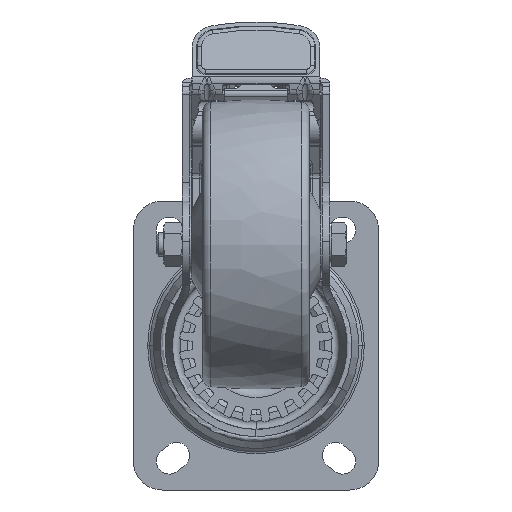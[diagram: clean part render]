
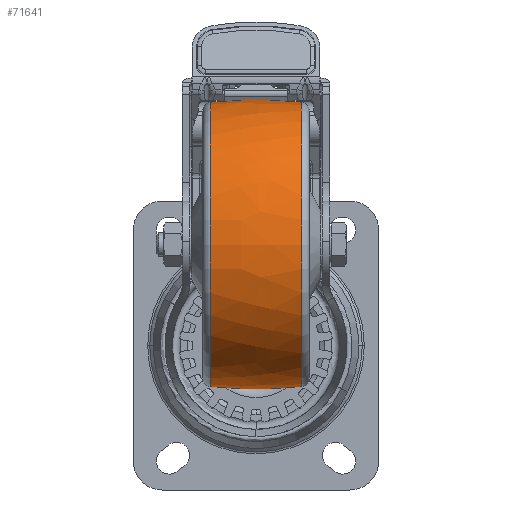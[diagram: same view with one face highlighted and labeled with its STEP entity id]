
A CAD part, front view. The second image highlights one B-rep face of the part: STEP entity #71641.
In plain terms, the highlighted free-form (B-spline) face has degree [3, 3] with [7, 4] control points.
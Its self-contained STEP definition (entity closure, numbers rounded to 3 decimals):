
#1270 = VERTEX_POINT ( 'NONE', #44808 ) ;
#2402 = CARTESIAN_POINT ( 'NONE',  ( -5.504, -50.203, -3.159 ) ) ;
#3010 = CARTESIAN_POINT ( 'NONE',  ( 5.504, 0., 50.303 ) ) ;
#3611 = CARTESIAN_POINT ( 'NONE',  ( 16.446, 30.213, 49.096 ) ) ;
#15930 = CARTESIAN_POINT ( 'NONE',  ( 15.816, -49.164, 0. ) ) ;
#17720 = CARTESIAN_POINT ( 'NONE',  ( -5.504, 52.147, 27.737 ) ) ;
#18519 = EDGE_CURVE ( 'NONE', #1270, #134571, #135634, .T. ) ;
#26182 = CIRCLE ( 'NONE', #42511, 150. ) ;
#28555 = FACE_OUTER_BOUND ( 'NONE', #121001, .T. ) ;
#29683 = AXIS2_PLACEMENT_3D ( 'NONE', #38571, #136924, #52700 ) ;
#31857 = CARTESIAN_POINT ( 'NONE',  ( 16.446, 0., 49.096 ) ) ;
#32692 = EDGE_CURVE ( 'NONE', #1270, #151261, #54250, .T. ) ;
#37574 = DIRECTION ( 'NONE',  ( 0.105, 0.994, 0. ) ) ;
#38571 = CARTESIAN_POINT ( 'NONE',  ( -15.816, 0., 0. ) ) ;
#42511 = AXIS2_PLACEMENT_3D ( 'NONE', #171399, #74216, #144997 ) ;
#44385 = ORIENTED_EDGE ( 'NONE', *, *, #32692, .F. ) ;
#44808 = CARTESIAN_POINT ( 'NONE',  ( 15.816, 49.164, 0. ) ) ;
#46602 = CARTESIAN_POINT ( 'NONE',  ( -5.504, 50.203, -3.159 ) ) ;
#51740 = CARTESIAN_POINT ( 'NONE',  ( 0., -100., 0. ) ) ;
#52700 = DIRECTION ( 'NONE',  ( 0., 1., 0. ) ) ;
#54250 = CIRCLE ( 'NONE', #56153, 49.164 ) ;
#56153 = AXIS2_PLACEMENT_3D ( 'NONE', #108083, #95172, #148748 ) ;
#60106 = CARTESIAN_POINT ( 'NONE',  ( 16.446, -30.213, 49.096 ) ) ;
#69793 =( BOUNDED_SURFACE ( )  B_SPLINE_SURFACE ( 3, 3, ( 
 ( #101924, #46602, #172605, #144968 ),
 ( #158440, #17720, #116079, #87171 ),
 ( #142509, #73581, #102520, #3611 ),
 ( #74185, #157830, #3010, #31857 ),
 ( #144346, #129611, #114223, #60106 ),
 ( #156636, #115464, #72378, #170752 ),
 ( #86557, #2402, #100673, #101293 ) ),
 .UNSPECIFIED., .F., .F., .F. ) 
 B_SPLINE_SURFACE_WITH_KNOTS ( ( 4, 3, 4 ),
 ( 4, 4 ),
 ( 0., 1., 2. ),
 ( 0., 1. ),
 .UNSPECIFIED. ) 
 GEOMETRIC_REPRESENTATION_ITEM ( )  RATIONAL_B_SPLINE_SURFACE ( (
 ( 1.191, 1.186, 1.186, 1.191),
 ( 0.94, 0.937, 0.937, 0.94),
 ( 0.94, 0.937, 0.937, 0.94),
 ( 1.191, 1.186, 1.186, 1.191),
 ( 0.94, 0.937, 0.937, 0.94),
 ( 0.94, 0.937, 0.937, 0.94),
 ( 1.191, 1.186, 1.186, 1.191) ) ) 
 REPRESENTATION_ITEM ( '' )  SURFACE ( )  );
#71641 = ADVANCED_FACE ( 'NONE', ( #28555 ), #69793, .T. ) ;
#72378 = CARTESIAN_POINT ( 'NONE',  ( 5.504, -52.147, 27.737 ) ) ;
#73581 = CARTESIAN_POINT ( 'NONE',  ( -5.504, 30.956, 50.303 ) ) ;
#74185 = CARTESIAN_POINT ( 'NONE',  ( -16.446, 0., 49.096 ) ) ;
#74216 = DIRECTION ( 'NONE',  ( 0., 0., -1. ) ) ;
#86557 = CARTESIAN_POINT ( 'NONE',  ( -16.446, -48.999, -3.083 ) ) ;
#87171 = CARTESIAN_POINT ( 'NONE',  ( 16.446, 50.896, 27.071 ) ) ;
#89801 = EDGE_CURVE ( 'NONE', #134571, #110494, #135645, .T. ) ;
#95129 = CARTESIAN_POINT ( 'NONE',  ( -15.816, 49.164, 0. ) ) ;
#95172 = DIRECTION ( 'NONE',  ( 1., 0., 0. ) ) ;
#100673 = CARTESIAN_POINT ( 'NONE',  ( 5.504, -50.203, -3.159 ) ) ;
#101293 = CARTESIAN_POINT ( 'NONE',  ( 16.446, -48.999, -3.083 ) ) ;
#101924 = CARTESIAN_POINT ( 'NONE',  ( -16.446, 48.999, -3.083 ) ) ;
#102520 = CARTESIAN_POINT ( 'NONE',  ( 5.504, 30.956, 50.303 ) ) ;
#103662 = ORIENTED_EDGE ( 'NONE', *, *, #145293, .F. ) ;
#108083 = CARTESIAN_POINT ( 'NONE',  ( 15.816, 0., 0. ) ) ;
#110494 = VERTEX_POINT ( 'NONE', #113820 ) ;
#113820 = CARTESIAN_POINT ( 'NONE',  ( -15.816, -49.164, 0. ) ) ;
#114052 = ORIENTED_EDGE ( 'NONE', *, *, #89801, .T. ) ;
#114223 = CARTESIAN_POINT ( 'NONE',  ( 5.504, -30.956, 50.303 ) ) ;
#114325 = ORIENTED_EDGE ( 'NONE', *, *, #18519, .T. ) ;
#115464 = CARTESIAN_POINT ( 'NONE',  ( -5.504, -52.147, 27.737 ) ) ;
#116079 = CARTESIAN_POINT ( 'NONE',  ( 5.504, 52.147, 27.737 ) ) ;
#121001 = EDGE_LOOP ( 'NONE', ( #114052, #103662, #44385, #114325 ) ) ;
#129611 = CARTESIAN_POINT ( 'NONE',  ( -5.504, -30.956, 50.303 ) ) ;
#134571 = VERTEX_POINT ( 'NONE', #95129 ) ;
#135634 = CIRCLE ( 'NONE', #137258, 150. ) ;
#135645 = CIRCLE ( 'NONE', #29683, 49.164 ) ;
#136924 = DIRECTION ( 'NONE',  ( 1., 0., 0. ) ) ;
#137258 = AXIS2_PLACEMENT_3D ( 'NONE', #51740, #149498, #37574 ) ;
#142509 = CARTESIAN_POINT ( 'NONE',  ( -16.446, 30.213, 49.096 ) ) ;
#144346 = CARTESIAN_POINT ( 'NONE',  ( -16.446, -30.213, 49.096 ) ) ;
#144968 = CARTESIAN_POINT ( 'NONE',  ( 16.446, 48.999, -3.083 ) ) ;
#144997 = DIRECTION ( 'NONE',  ( 0.105, -0.994, 0. ) ) ;
#145293 = EDGE_CURVE ( 'NONE', #151261, #110494, #26182, .T. ) ;
#148748 = DIRECTION ( 'NONE',  ( 0., 1., 0. ) ) ;
#149498 = DIRECTION ( 'NONE',  ( 0., 0., 1. ) ) ;
#151261 = VERTEX_POINT ( 'NONE', #15930 ) ;
#156636 = CARTESIAN_POINT ( 'NONE',  ( -16.446, -50.896, 27.071 ) ) ;
#157830 = CARTESIAN_POINT ( 'NONE',  ( -5.504, 0., 50.303 ) ) ;
#158440 = CARTESIAN_POINT ( 'NONE',  ( -16.446, 50.896, 27.071 ) ) ;
#170752 = CARTESIAN_POINT ( 'NONE',  ( 16.446, -50.896, 27.071 ) ) ;
#171399 = CARTESIAN_POINT ( 'NONE',  ( 0., 100., 0. ) ) ;
#172605 = CARTESIAN_POINT ( 'NONE',  ( 5.504, 50.203, -3.159 ) ) ;
